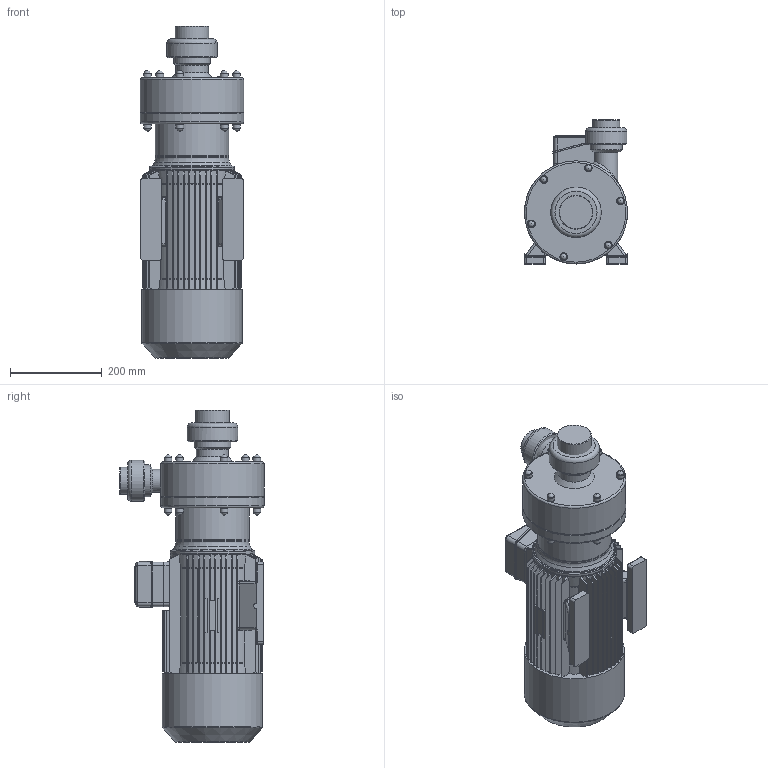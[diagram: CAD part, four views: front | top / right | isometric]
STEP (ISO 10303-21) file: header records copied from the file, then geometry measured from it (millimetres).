
FILE_DESCRIPTION(/* description */ (''),/* implementation_level */ '2;1');
FILE_NAME(/* name */ 'C:\Users\tarpo\OneDrive\Masaüstü\Pompalar Resimler ve Cad Dosyalar\350 A\350 A.stp',/* time_stamp */ '2024-07-12T11:44:29+03:00',/* author */ ('tarpo'),/* organization */ (''),/* preprocessor_version */ 'ST-DEVELOPER v18',/* originating_system */ 'Autodesk Inventor 2020',/* authorisation */ '');
FILE_SCHEMA (('CONFIG_CONTROL_DESIGN'));
Length unit declared in the file: millimetre
Products named in the file (1): 350 A_Shrinkwrap_1
Bounding box: 225 x 314.25 x 724.3 mm (x, y, z)
Volume: 21984233.9 mm3; surface area: 1235227.7 mm2
Topology: 32 solids, 32 shells, 855 faces, 2252 edges, 1472 vertices
Faces by surface type: plane 297, cylinder 211, cone 160, torus 112, bspline 62, sphere 13
Full cylindrical faces by diameter (mm): 16 x12, 16.8 x12, 23 x1, 28 x1, 50 x1, 59.5 x1, 66 x1, 70 x2, 74 x1, 80 x1, 85.7 x1, 90 x1, 95 x1, 110 x2, 159.9 x1, 160 x3, 183.801 x1, 184 x1, 218.5 x1, 225 x2
Entity records: 35033 total; most frequent: CARTESIAN_POINT 13799, ORIENTED_EDGE 4474, DIRECTION 4080, EDGE_CURVE 2237, AXIS2_PLACEMENT_3D 1649, VERTEX_POINT 1473, STYLED_ITEM 887, EDGE_LOOP 886
